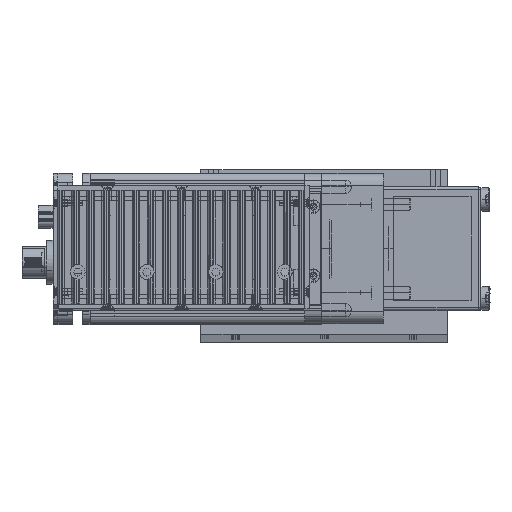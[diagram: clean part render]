
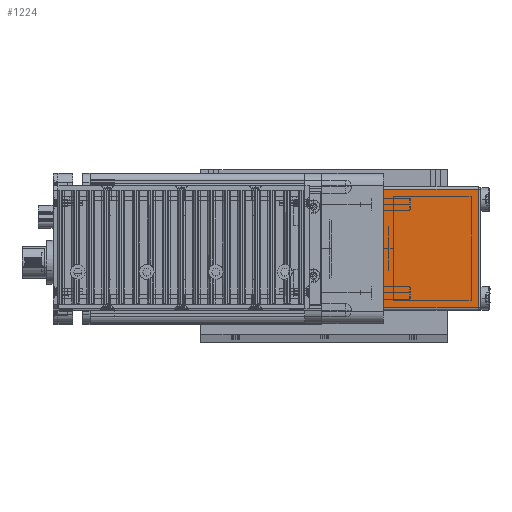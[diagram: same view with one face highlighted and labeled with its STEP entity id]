
A CAD part, top view. The second image highlights one B-rep face of the part: STEP entity #1224.
In plain terms, the highlighted planar face has unit normal (0, 0, 1) as drawn and (1, 0, 0) by its records, which use the part's own axes.
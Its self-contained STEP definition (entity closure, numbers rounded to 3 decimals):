
#21 = CARTESIAN_POINT ( 'NONE',  ( 62., -24., 38.5 ) ) ;
#1180 = EDGE_CURVE ( 'NONE', #23820, #23833, #24111, .T. ) ;
#1196 = ORIENTED_EDGE ( 'NONE', *, *, #23815, .F. ) ;
#1224 = ADVANCED_FACE ( 'NONE', ( #24059 ), #24106, .F. ) ;
#1273 = ORIENTED_EDGE ( 'NONE', *, *, #1180, .T. ) ;
#1277 = EDGE_LOOP ( 'NONE', ( #1362, #1273, #1196, #1372 ) ) ;
#1362 = ORIENTED_EDGE ( 'NONE', *, *, #23806, .F. ) ;
#1372 = ORIENTED_EDGE ( 'NONE', *, *, #1408, .F. ) ;
#1408 = EDGE_CURVE ( 'NONE', #23825, #23812, #24122, .T. ) ;
#23806 = EDGE_CURVE ( 'NONE', #23820, #23825, #50420, .T. ) ;
#23812 = VERTEX_POINT ( 'NONE', #50474 ) ;
#23815 = EDGE_CURVE ( 'NONE', #23812, #23833, #50460, .T. ) ;
#23820 = VERTEX_POINT ( 'NONE', #50442 ) ;
#23825 = VERTEX_POINT ( 'NONE', #21 ) ;
#23833 = VERTEX_POINT ( 'NONE', #50479 ) ;
#24059 = FACE_OUTER_BOUND ( 'NONE', #1277, .T. ) ;
#24083 = DIRECTION ( 'NONE',  ( 0., -1., 0. ) ) ;
#24084 = DIRECTION ( 'NONE',  ( -1., 0., 0. ) ) ;
#24102 = CARTESIAN_POINT ( 'NONE',  ( 62., 25., 39.5 ) ) ;
#24106 = PLANE ( 'NONE',  #24112 ) ;
#24107 = DIRECTION ( 'NONE',  ( 0., 1., 0. ) ) ;
#24108 = VECTOR ( 'NONE', #24107, 1000. ) ;
#24110 = CARTESIAN_POINT ( 'NONE',  ( 62., -25., 0. ) ) ;
#24111 = LINE ( 'NONE', #24110, #24108 ) ;
#24112 = AXIS2_PLACEMENT_3D ( 'NONE', #24102, #24084, #24083 ) ;
#24114 = DIRECTION ( 'NONE',  ( 0., 1., 0. ) ) ;
#24115 = VECTOR ( 'NONE', #24114, 1000. ) ;
#24116 = CARTESIAN_POINT ( 'NONE',  ( 62., -25., 38.5 ) ) ;
#24122 = LINE ( 'NONE', #24116, #24115 ) ;
#50410 = DIRECTION ( 'NONE',  ( 0., 0., 1. ) ) ;
#50411 = VECTOR ( 'NONE', #50410, 1000. ) ;
#50412 = CARTESIAN_POINT ( 'NONE',  ( 62., -24., 39.5 ) ) ;
#50420 = LINE ( 'NONE', #50412, #50411 ) ;
#50442 = CARTESIAN_POINT ( 'NONE',  ( 62., -24., 0. ) ) ;
#50449 = DIRECTION ( 'NONE',  ( 0., 0., -1. ) ) ;
#50451 = VECTOR ( 'NONE', #50449, 1000. ) ;
#50459 = CARTESIAN_POINT ( 'NONE',  ( 62., 24., 39.5 ) ) ;
#50460 = LINE ( 'NONE', #50459, #50451 ) ;
#50474 = CARTESIAN_POINT ( 'NONE',  ( 62., 24., 38.5 ) ) ;
#50479 = CARTESIAN_POINT ( 'NONE',  ( 62., 24., 0. ) ) ;
